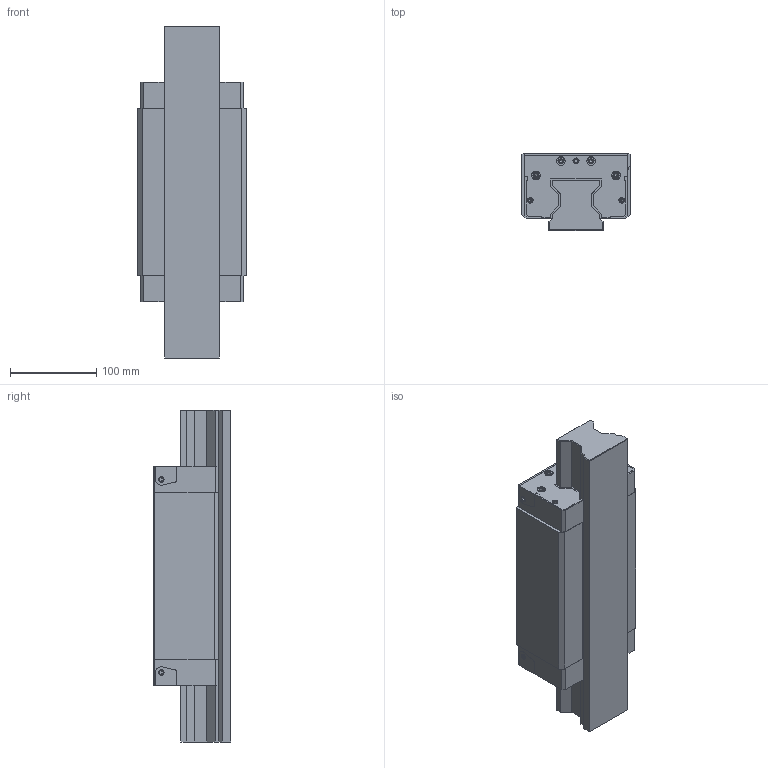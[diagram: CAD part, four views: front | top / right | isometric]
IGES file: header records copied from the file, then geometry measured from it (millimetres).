
Start section: 3D InterOp IGES (v. 2019 1.0.2), Spatial Corp. Copyright (c) 1999-2017.
Global section: file name: R1823_size65.igs; native system: Spatial Corp.; preprocessor: 3D InterOp GENERIC/IGES 3.0; author: Noname; organization: Noname; date: 20220630.112905; units: millimetre
Bounding box: 126 x 90 x 385.3 mm (x, y, z)
Surface area: 334369.5 mm2 (no closed solid volume)
Topology: 0 solids, 0 shells, 590 faces, 3140 edges, 3092 vertices
Faces by surface type: extrusion 334, revolution 256
